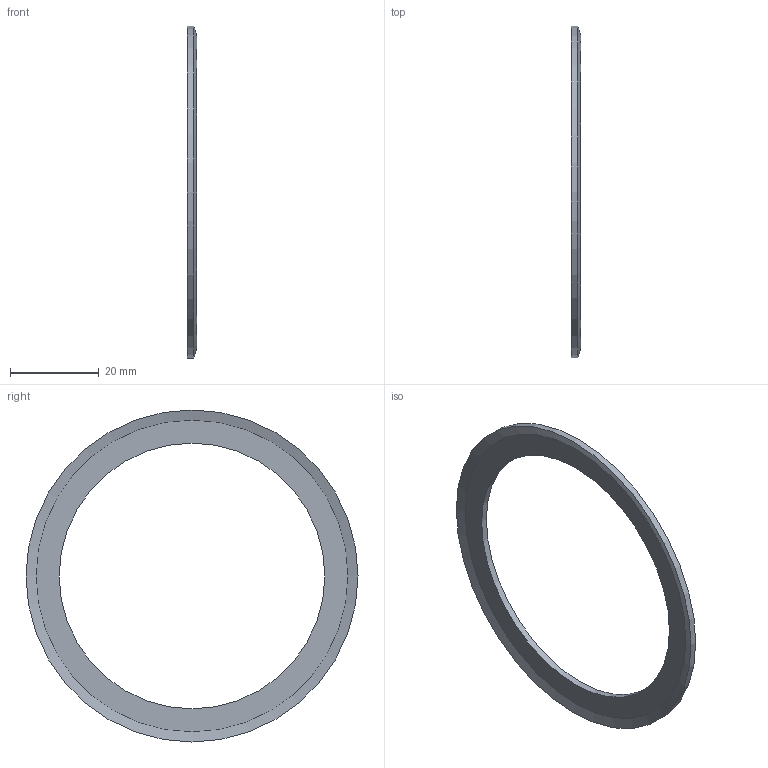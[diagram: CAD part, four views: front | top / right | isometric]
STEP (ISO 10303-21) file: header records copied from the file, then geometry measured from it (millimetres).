
FILE_DESCRIPTION(/* description */ ('FLANGIA TIPO 79'),/* implementation_level */ '2;1');
FILE_NAME(/* name */ 'w:\documenti\Disegni dwg\Catalogo\Flange\49200079.stp',/* time_stamp */ '2023-05-09T11:27:51+02:00',/* author */ ('carlo.bersi'),/* organization */ (''),/* preprocessor_version */ 'ST-DEVELOPER v19',/* originating_system */ 'Autodesk Inventor 2023',/* authorisation */ '');
FILE_SCHEMA (('CONFIG_CONTROL_DESIGN'));
Length unit declared in the file: millimetre
Products named in the file (1): 49200079
Bounding box: 2.1 x 75 x 75 mm (x, y, z)
Volume: 2385.6 mm3; surface area: 3853.3 mm2
Topology: 1 solids, 1 shells, 6 faces, 10 edges, 6 vertices
Faces by surface type: cone 2, cylinder 2, plane 2
Full cylindrical faces by diameter (mm): 60 x1, 75 x1
Entity records: 191 total; most frequent: DIRECTION 30, CARTESIAN_POINT 23, ORIENTED_EDGE 20, AXIS2_PLACEMENT_3D 13, EDGE_CURVE 10, EDGE_LOOP 8, FACE_OUTER_BOUND 6, CIRCLE 6
